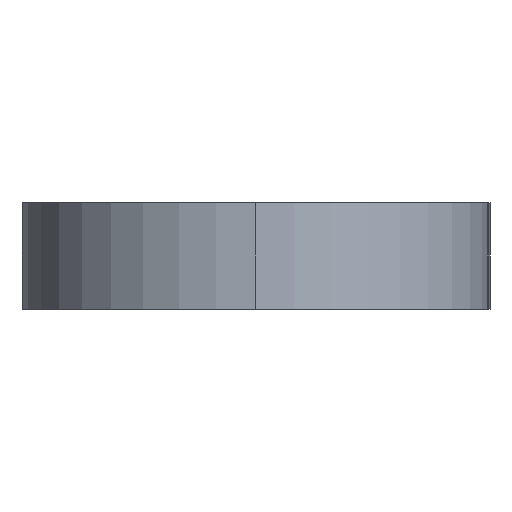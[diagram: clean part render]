
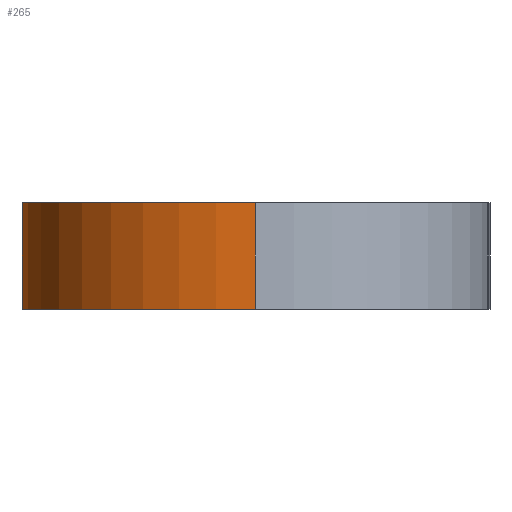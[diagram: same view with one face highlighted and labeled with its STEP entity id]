
A CAD part, left-side view. The second image highlights one B-rep face of the part: STEP entity #265.
In plain terms, the highlighted cylindrical face has radius 5.5 mm (diameter 11 mm), a partial arc.
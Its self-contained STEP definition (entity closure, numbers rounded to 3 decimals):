
#23 = CYLINDRICAL_SURFACE ( 'NONE', #133, 5.5 ) ;
#41 = DIRECTION ( 'NONE',  ( 0., 0., -1. ) ) ;
#63 = CIRCLE ( 'NONE', #754, 5.5 ) ;
#106 = DIRECTION ( 'NONE',  ( -1., 0., 0. ) ) ;
#123 = ORIENTED_EDGE ( 'NONE', *, *, #558, .F. ) ;
#133 = AXIS2_PLACEMENT_3D ( 'NONE', #487, #843, #106 ) ;
#171 = DIRECTION ( 'NONE',  ( 1., 0., 0. ) ) ;
#185 = DIRECTION ( 'NONE',  ( 1., 0., 0. ) ) ;
#192 = VERTEX_POINT ( 'NONE', #676 ) ;
#200 = VECTOR ( 'NONE', #759, 1000. ) ;
#224 = CARTESIAN_POINT ( 'NONE',  ( -63.921, -8.561, 0. ) ) ;
#245 = AXIS2_PLACEMENT_3D ( 'NONE', #758, #41, #171 ) ;
#260 = EDGE_LOOP ( 'NONE', ( #613, #753, #686, #123 ) ) ;
#265 = ADVANCED_FACE ( 'NONE', ( #539 ), #23, .T. ) ;
#292 = CARTESIAN_POINT ( 'NONE',  ( -63.921, -8.561, 2.5 ) ) ;
#295 = CARTESIAN_POINT ( 'NONE',  ( -63.921, -8.561, 2.5 ) ) ;
#357 = VERTEX_POINT ( 'NONE', #389 ) ;
#389 = CARTESIAN_POINT ( 'NONE',  ( -72.519, -13.106, 2.5 ) ) ;
#443 = VECTOR ( 'NONE', #483, 1000. ) ;
#452 = EDGE_CURVE ( 'NONE', #357, #192, #795, .T. ) ;
#483 = DIRECTION ( 'NONE',  ( 0., 0., -1. ) ) ;
#487 = CARTESIAN_POINT ( 'NONE',  ( -67.019, -13.106, 2.5 ) ) ;
#539 = FACE_OUTER_BOUND ( 'NONE', #260, .T. ) ;
#540 = CIRCLE ( 'NONE', #245, 5.5 ) ;
#558 = EDGE_CURVE ( 'NONE', #192, #644, #63, .T. ) ;
#562 = EDGE_CURVE ( 'NONE', #357, #774, #540, .T. ) ;
#565 = CARTESIAN_POINT ( 'NONE',  ( -72.519, -13.106, 2.5 ) ) ;
#613 = ORIENTED_EDGE ( 'NONE', *, *, #452, .F. ) ;
#639 = EDGE_CURVE ( 'NONE', #774, #644, #681, .T. ) ;
#644 = VERTEX_POINT ( 'NONE', #224 ) ;
#676 = CARTESIAN_POINT ( 'NONE',  ( -72.519, -13.106, 0. ) ) ;
#681 = LINE ( 'NONE', #292, #200 ) ;
#686 = ORIENTED_EDGE ( 'NONE', *, *, #639, .T. ) ;
#692 = DIRECTION ( 'NONE',  ( 0., 0., -1. ) ) ;
#753 = ORIENTED_EDGE ( 'NONE', *, *, #562, .T. ) ;
#754 = AXIS2_PLACEMENT_3D ( 'NONE', #787, #692, #185 ) ;
#758 = CARTESIAN_POINT ( 'NONE',  ( -67.019, -13.106, 2.5 ) ) ;
#759 = DIRECTION ( 'NONE',  ( 0., 0., -1. ) ) ;
#774 = VERTEX_POINT ( 'NONE', #295 ) ;
#787 = CARTESIAN_POINT ( 'NONE',  ( -67.019, -13.106, 0. ) ) ;
#795 = LINE ( 'NONE', #565, #443 ) ;
#843 = DIRECTION ( 'NONE',  ( 0., 0., -1. ) ) ;
